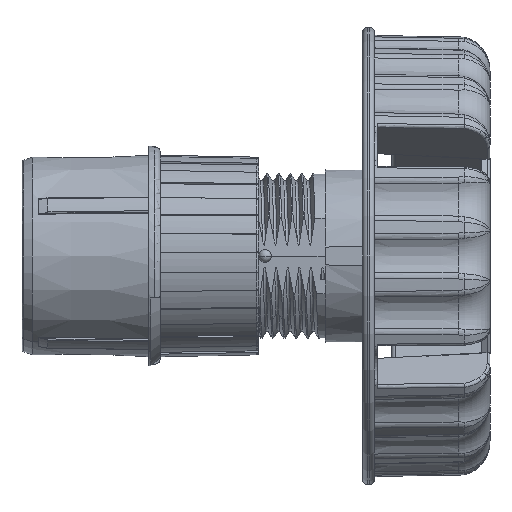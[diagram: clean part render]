
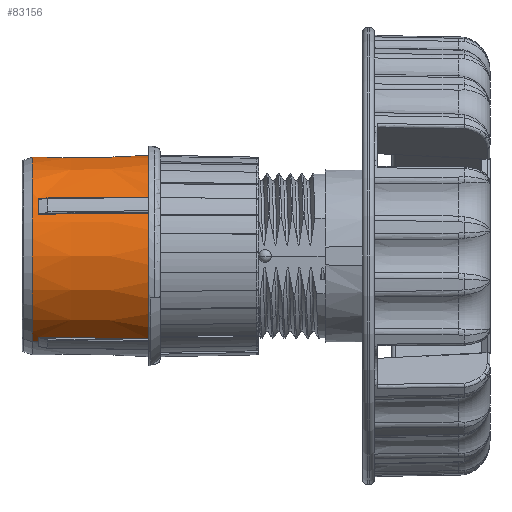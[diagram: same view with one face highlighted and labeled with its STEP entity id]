
A CAD part, left-side view. The second image highlights one B-rep face of the part: STEP entity #83156.
In plain terms, the highlighted conical face has half-angle 1 degrees and reference radius 17.285 mm.
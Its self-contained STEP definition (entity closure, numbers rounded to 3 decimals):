
#78003=CARTESIAN_POINT('',(0.,0.,0.));
#78004=DIRECTION('',(0.,-1.,0.));
#78005=DIRECTION('',(0.996,0.,0.086));
#78006=AXIS2_PLACEMENT_3D('',#78003,#78004,#78005);
#78008=CARTESIAN_POINT('',(0.,0.,0.));
#78009=DIRECTION('',(0.,-1.,0.));
#78010=DIRECTION('',(-0.086,0.,0.996));
#78011=AXIS2_PLACEMENT_3D('',#78008,#78009,#78010);
#78017=CARTESIAN_POINT('',(0.,19.,0.));
#78018=DIRECTION('',(0.,-1.,0.));
#78019=DIRECTION('',(1.,0.,0.));
#78020=AXIS2_PLACEMENT_3D('',#78017,#78018,#78019);
#78070=CARTESIAN_POINT('',(0.,19.,0.));
#78071=DIRECTION('',(0.,-1.,0.));
#78072=DIRECTION('',(0.088,0.,0.996));
#78073=AXIS2_PLACEMENT_3D('',#78070,#78071,#78072);
#78085=CARTESIAN_POINT('',(-1.5,0.,17.395));
#78086=CARTESIAN_POINT('',(-1.5,2.117,17.358));
#78087=CARTESIAN_POINT('',(-1.5,6.347,17.284));
#78088=CARTESIAN_POINT('',(-1.5,12.68,17.173));
#78089=CARTESIAN_POINT('',(-1.5,16.895,17.099));
#78090=CARTESIAN_POINT('',(-1.5,19.,17.063));
#78173=CARTESIAN_POINT('',(1.5,19.,17.063));
#78174=CARTESIAN_POINT('',(1.5,16.895,17.099));
#78175=CARTESIAN_POINT('',(1.5,12.681,17.173));
#78176=CARTESIAN_POINT('',(1.5,6.347,17.284));
#78177=CARTESIAN_POINT('',(1.5,2.117,17.358));
#78178=CARTESIAN_POINT('',(1.5,0.,17.395));
#82082=CARTESIAN_POINT('',(0.,20.09,0.));
#82083=DIRECTION('',(0.,-1.,0.));
#82084=DIRECTION('',(1.,0.,0.));
#82085=AXIS2_PLACEMENT_3D('',#82082,#82083,#82084);
#82087=DIRECTION('',(-0.017,1.,0.));
#82088=VECTOR('',#82087,1.09);
#82089=CARTESIAN_POINT('',(17.128,19.,0.));
#82090=LINE('',#82089,#82088);
#82091=DIRECTION('',(0.017,1.,0.));
#82092=VECTOR('',#82091,1.09);
#82093=CARTESIAN_POINT('',(-17.128,19.,0.));
#82094=LINE('',#82093,#82092);
#82114=CARTESIAN_POINT('',(0.,19.,0.));
#82115=DIRECTION('',(0.,-1.,0.));
#82116=DIRECTION('',(-0.996,0.,0.088));
#82117=AXIS2_PLACEMENT_3D('',#82114,#82115,#82116);
#82217=CARTESIAN_POINT('',(-17.063,19.,1.5));
#82218=CARTESIAN_POINT('',(-17.099,16.895,1.5));
#82219=CARTESIAN_POINT('',(-17.173,12.681,1.5));
#82220=CARTESIAN_POINT('',(-17.284,6.347,1.5));
#82221=CARTESIAN_POINT('',(-17.358,2.117,1.5));
#82222=CARTESIAN_POINT('',(-17.395,0.,1.5));
#82437=CARTESIAN_POINT('',(17.395,0.,1.5));
#82438=CARTESIAN_POINT('',(17.358,2.117,1.5));
#82439=CARTESIAN_POINT('',(17.284,6.347,1.5));
#82440=CARTESIAN_POINT('',(17.173,12.68,1.5));
#82441=CARTESIAN_POINT('',(17.099,16.895,1.5));
#82442=CARTESIAN_POINT('',(17.063,19.,1.5));
#82506=CARTESIAN_POINT('',(17.109,20.09,0.));
#82507=CARTESIAN_POINT('',(-17.109,20.09,0.));
#82508=VERTEX_POINT('',#82506);
#82509=VERTEX_POINT('',#82507);
#82510=CARTESIAN_POINT('',(1.5,19.,17.063));
#82511=CARTESIAN_POINT('',(-1.5,19.,17.063));
#82512=VERTEX_POINT('',#82510);
#82513=VERTEX_POINT('',#82511);
#82514=VERTEX_POINT('',#78085);
#82515=VERTEX_POINT('',#78178);
#82516=CARTESIAN_POINT('',(-17.063,19.,1.5));
#82517=CARTESIAN_POINT('',(-17.128,19.,0.));
#82518=VERTEX_POINT('',#82516);
#82519=VERTEX_POINT('',#82517);
#82520=VERTEX_POINT('',#82222);
#82530=CARTESIAN_POINT('',(17.128,19.,0.));
#82531=CARTESIAN_POINT('',(17.063,19.,1.5));
#82532=VERTEX_POINT('',#82530);
#82533=VERTEX_POINT('',#82531);
#82534=VERTEX_POINT('',#82437);
#83125=CARTESIAN_POINT('',(0.,10.045,0.));
#83126=DIRECTION('',(0.,-1.,0.));
#83127=DIRECTION('',(-1.,0.,0.));
#83128=AXIS2_PLACEMENT_3D('',#83125,#83126,#83127);
#83129=CONICAL_SURFACE('',#83128,17.285,1.);
#83131=ORIENTED_EDGE('',*,*,#83130,.T.);
#83133=ORIENTED_EDGE('',*,*,#83132,.F.);
#83135=ORIENTED_EDGE('',*,*,#83134,.T.);
#83137=ORIENTED_EDGE('',*,*,#83136,.F.);
#83139=ORIENTED_EDGE('',*,*,#83138,.T.);
#83141=ORIENTED_EDGE('',*,*,#83140,.F.);
#83143=ORIENTED_EDGE('',*,*,#83142,.T.);
#83145=ORIENTED_EDGE('',*,*,#83144,.F.);
#83147=ORIENTED_EDGE('',*,*,#83146,.T.);
#83149=ORIENTED_EDGE('',*,*,#83148,.T.);
#83151=ORIENTED_EDGE('',*,*,#83150,.F.);
#83153=ORIENTED_EDGE('',*,*,#83152,.F.);
#83154=EDGE_LOOP('',(#83131,#83133,#83135,#83137,#83139,#83141,#83143,#83145,
#83147,#83149,#83151,#83153));
#83155=FACE_OUTER_BOUND('',#83154,.F.);
#83156=ADVANCED_FACE('',(#83155),#83129,.T.);
#78007=CIRCLE('',#78006,17.46);
#78012=CIRCLE('',#78011,17.46);
#78021=CIRCLE('',#78020,17.128);
#78074=CIRCLE('',#78073,17.128);
#78091=B_SPLINE_CURVE_WITH_KNOTS('',3,(#78085,#78086,#78087,#78088,#78089,
#78090),.UNSPECIFIED.,.F.,.F.,(4,1,1,4),(0.,0.333,
0.667,1.),.UNSPECIFIED.);
#78179=B_SPLINE_CURVE_WITH_KNOTS('',3,(#78173,#78174,#78175,#78176,#78177,
#78178),.UNSPECIFIED.,.F.,.F.,(4,1,1,4),(0.,0.333,
0.667,1.),.UNSPECIFIED.);
#82086=CIRCLE('',#82085,17.109);
#82118=CIRCLE('',#82117,17.128);
#82223=B_SPLINE_CURVE_WITH_KNOTS('',3,(#82217,#82218,#82219,#82220,#82221,
#82222),.UNSPECIFIED.,.F.,.F.,(4,1,1,4),(0.,0.333,
0.667,1.),.UNSPECIFIED.);
#82443=B_SPLINE_CURVE_WITH_KNOTS('',3,(#82437,#82438,#82439,#82440,#82441,
#82442),.UNSPECIFIED.,.F.,.F.,(4,1,1,4),(0.,0.333,
0.667,1.),.UNSPECIFIED.);
#83130=EDGE_CURVE('',#82532,#82533,#78021,.T.);
#83132=EDGE_CURVE('',#82534,#82533,#82443,.T.);
#83134=EDGE_CURVE('',#82534,#82515,#78007,.T.);
#83136=EDGE_CURVE('',#82512,#82515,#78179,.T.);
#83138=EDGE_CURVE('',#82512,#82513,#78074,.T.);
#83140=EDGE_CURVE('',#82514,#82513,#78091,.T.);
#83142=EDGE_CURVE('',#82514,#82520,#78012,.T.);
#83144=EDGE_CURVE('',#82518,#82520,#82223,.T.);
#83146=EDGE_CURVE('',#82518,#82519,#82118,.T.);
#83148=EDGE_CURVE('',#82519,#82509,#82094,.T.);
#83150=EDGE_CURVE('',#82508,#82509,#82086,.T.);
#83152=EDGE_CURVE('',#82532,#82508,#82090,.T.);
